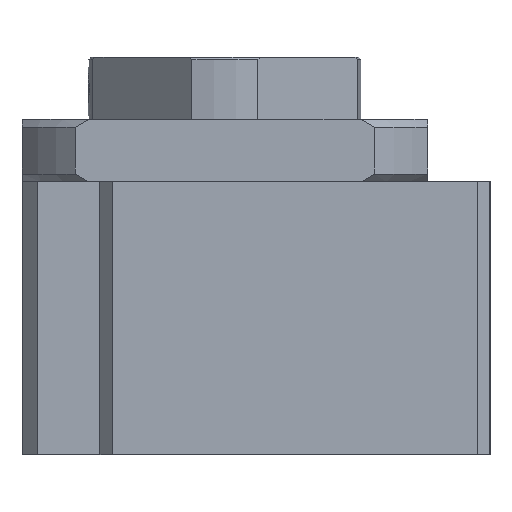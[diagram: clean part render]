
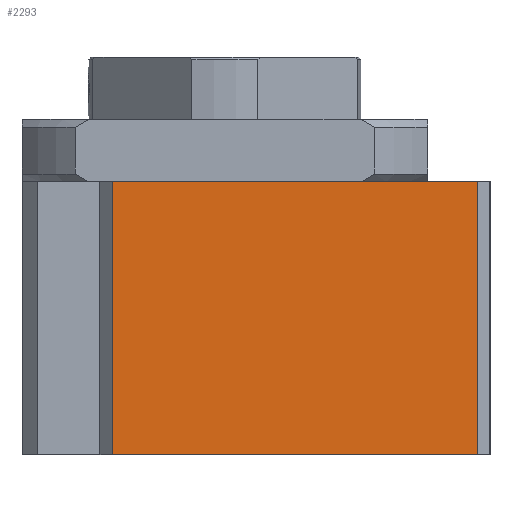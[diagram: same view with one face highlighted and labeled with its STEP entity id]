
A CAD part, left-side view. The second image highlights one B-rep face of the part: STEP entity #2293.
In plain terms, the highlighted planar face has unit normal (-1, 0, 0).
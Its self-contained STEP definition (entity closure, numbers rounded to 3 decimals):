
#117=LINE('',#3497,#289);
#130=LINE('',#3530,#302);
#131=LINE('',#3533,#303);
#132=LINE('',#3534,#304);
#289=VECTOR('',#2774,1000.);
#302=VECTOR('',#2797,1000.);
#303=VECTOR('',#2798,1000.);
#304=VECTOR('',#2799,1000.);
#453=PLANE('',#2493);
#591=ORIENTED_EDGE('',*,*,#1214,.F.);
#592=ORIENTED_EDGE('',*,*,#1215,.F.);
#593=ORIENTED_EDGE('',*,*,#1198,.T.);
#594=ORIENTED_EDGE('',*,*,#1216,.T.);
#1198=EDGE_CURVE('',#1509,#1510,#117,.T.);
#1214=EDGE_CURVE('',#1524,#1525,#130,.T.);
#1215=EDGE_CURVE('',#1509,#1524,#131,.T.);
#1216=EDGE_CURVE('',#1510,#1525,#132,.T.);
#1509=VERTEX_POINT('',#3498);
#1510=VERTEX_POINT('',#3499);
#1524=VERTEX_POINT('',#3531);
#1525=VERTEX_POINT('',#3532);
#1821=EDGE_LOOP('',(#591,#592,#593,#594));
#2043=FACE_BOUND('',#1821,.T.);
#2293=ADVANCED_FACE('',(#2043),#453,.T.);
#2493=AXIS2_PLACEMENT_3D('',#3529,#2795,#2796);
#2774=DIRECTION('',(0.,-1.,0.));
#2795=DIRECTION('',(-1.,0.,0.));
#2796=DIRECTION('',(0.,0.,1.));
#2797=DIRECTION('',(0.,-1.,0.));
#2798=DIRECTION('',(0.,0.,1.));
#2799=DIRECTION('',(0.,0.,1.));
#3497=CARTESIAN_POINT('',(-44.,14.44,-35.));
#3498=CARTESIAN_POINT('',(-44.,14.44,-35.));
#3499=CARTESIAN_POINT('',(-44.,-32.44,-35.));
#3529=CARTESIAN_POINT('',(-44.,14.44,-35.));
#3530=CARTESIAN_POINT('',(-44.,14.44,0.));
#3531=CARTESIAN_POINT('',(-44.,14.44,0.));
#3532=CARTESIAN_POINT('',(-44.,-32.44,0.));
#3533=CARTESIAN_POINT('',(-44.,14.44,-35.));
#3534=CARTESIAN_POINT('',(-44.,-32.44,-35.));
